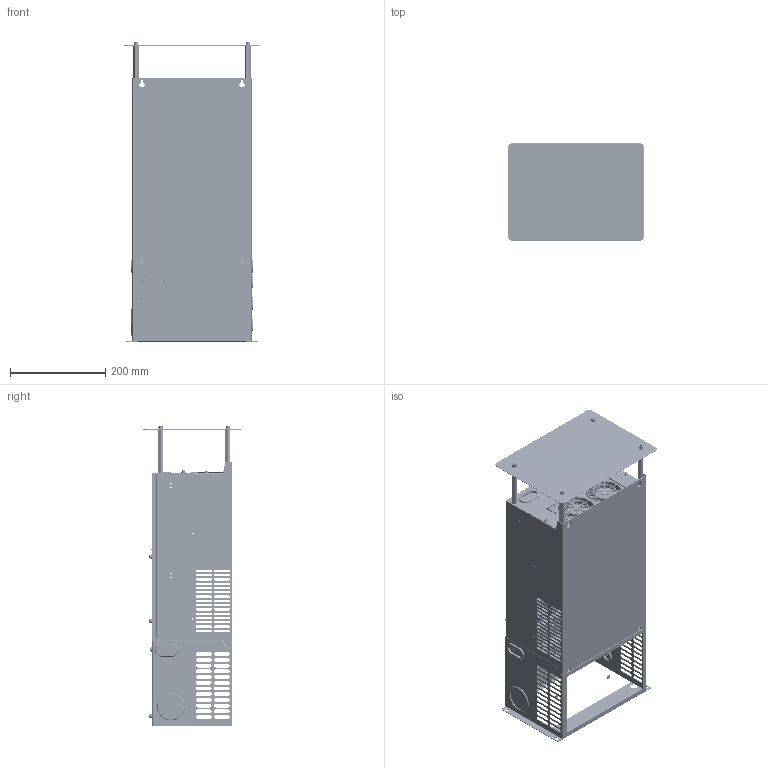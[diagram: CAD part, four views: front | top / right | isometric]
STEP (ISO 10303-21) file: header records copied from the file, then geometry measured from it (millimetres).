
FILE_DESCRIPTION((''),'2;1');
FILE_NAME('GD300-21-022G-4_ASM','2016-03-10T',('Administrator'),(''),'PRO/ENGINEER BY PARAMETRIC TECHNOLOGY CORPORATION, 2010100','PRO/ENGINEER BY PARAMETRIC TECHNOLOGY CORPORATION, 2010100','');
FILE_SCHEMA(('CONFIG_CONTROL_DESIGN'));
Products named in the file (95): TB1000-03-3P-DN_ASM; TB2000-01_1_7-3; TB2000-01_2_1_2; TB2000-00-T3-C_SCREW_1; TB2000-00-T3-C_SPRING_WASHER_1; TB2000-00-T3-C_GASKET_1; TB2000-00-T3-C_SCREW_INST_ASM_1_ASM; TB2000-00-C_M6_NUT_1; TB2000-01_2_ASM_5_ASM; TB2000-01_3_6-3; TB2000-01_ASM_5-3_ASM; PA1574_DR3_ASM; PA1574_CT1_A4; E-DIN0108-5_08MM-TM; E-DIN0104-5_08MM-TM; E-DIN0105-5_08MM-RM; PA1574_CT1_A4_ASM; 39009-00030; 39004-00040; 39004-00039; 36004-00109_ANYTEK; GTNR-25-6; GTNR-25-6-DL; GTNR-25-6_ASM; 30001-00021; 80780050; LF09-BZJ-FTH-3-01; ZHAXIANDAI_10; TNR1D25-3M_YUANLI; TVR1D25-3M_TAO; TVR1D25-3M_YUANLI_ASM; 39004-00033; GD300-21-022G-4-ES-XP_ASM; GD300-21-022G-4-ES_ASM; 80350311; S-M4-ZC; 80350311_ASM; 80383263; S-M5-ZC; 80383263_ASM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
Assembly tree (238 placements, depth 7):
  GD300-21-022G-4_ASM
    GD300-21-022G-4-ES_ASM
      PA1574_DR3_ASM
        TB1000-03-3P-DN_ASM  x2
        TB2000-01_ASM_5-3_ASM  x2
          TB2000-01_1_7-3
          TB2000-01_2_ASM_5_ASM
            TB2000-01_2_1_2
            TB2000-00-T3-C_SCREW_INST_ASM_1_ASM
              TB2000-00-T3-C_SCREW_1
              TB2000-00-T3-C_SPRING_WASHER_1
              TB2000-00-T3-C_GASKET_1
            TB2000-00-C_M6_NUT_1
          TB2000-01_3_6-3
      PA1574_CT1_A4_ASM
        PA1574_CT1_A4
        E-DIN0108-5_08MM-TM
        E-DIN0104-5_08MM-TM  x3
        E-DIN0105-5_08MM-RM
      39009-00030  x3
      39004-00040  x6
      39004-00039  x2
      36004-00109_ANYTEK
      GTNR-25-6_ASM  x6
        GTNR-25-6
        GTNR-25-6-DL
      30001-00021  x2
      80780050
      LF09-BZJ-FTH-3-01  x3
      ZHAXIANDAI_10  x3
      TVR1D25-3M_YUANLI_ASM  x7
        TNR1D25-3M_YUANLI
        TVR1D25-3M_TAO
      GD300-21-022G-4-ES-XP_ASM
        39004-00040  x2
        39004-00039
        39004-00033  x3
    41000338_ASM
      61060615_ASM
        80350311_ASM
          80350311
          S-M4-ZC  x6
        80383263_ASM
          80383263
          S-M5-ZC  x4
        80383262_ASM
          80383262
          SO-M4-4-ZC  x4
          S-M4-ZC
          BSO-M4-17-ZC  x2
          BSO-M4-8-ZC  x2
          S-M5-ZC  x2
          SO-M5-16-ZC
          SO-M4-6-ZC  x4
          YMD-55-0D8-SL
        80383278
      61060615SY
      80383271_ASM
        80383271
        YMD-55-0D8-SL
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Bounding box: 284.98 x 204.98 x 628.3 mm (x, y, z)
Volume: 1076015.7 mm3; surface area: 1628757.5 mm2
Topology: 254 solids, 292 shells, 24421 faces, 67167 edges, 43907 vertices
Faces by surface type: plane 18022, cylinder 4238, cone 746, torus 705, bspline 472, sphere 156, extrusion 70, revolution 12
Entity records: 270021 total; most frequent: CARTESIAN_POINT 68207, ORIENTED_EDGE 41960, DIRECTION 41023, EDGE_CURVE 21008, VECTOR 14099, LINE 14076, VERTEX_POINT 13572, AXIS2_PLACEMENT_3D 13459
